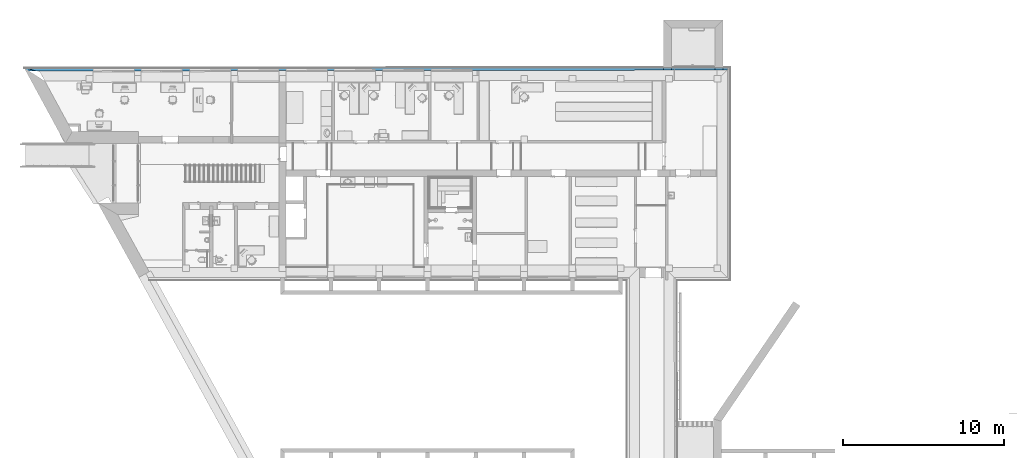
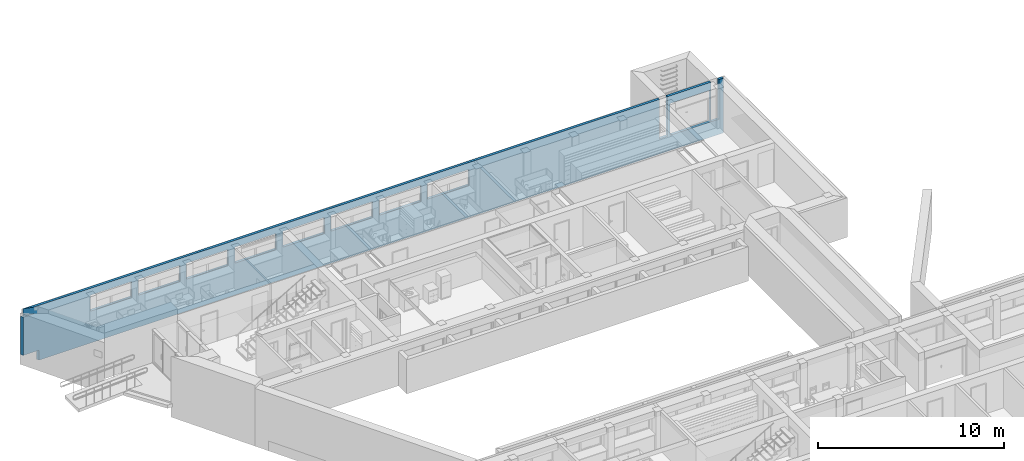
# One storey, part 65 of 127: 1 building element part, 9 openings, 1 element without a shape of its own.
"""IFC2X3 building model written with IfcOpenShell, lengths in millimetres."""

from ifc_helpers import new_model, entity, si_unit, converted_unit, derived_unit, money_unit, direction, frame, origin_with_axes, origin_2d_with_axis, place, context, subcontext, project, spatial, polyline, rectangle, outline, extrude, boolean, faceted_brep, material, type_object, element, aggregate, save


model = new_model("IFC2X3")

# Units and contexts
model_context = context("Model", 3, precision=1e-05, world=origin_with_axes(), true_north=direction((0.0, 1.0)))
body_context = subcontext(model_context, "Body", "Model", "MODEL_VIEW")
ifc_project = project(units=[si_unit("LENGTHUNIT", "METRE", prefix="MILLI"), si_unit("AREAUNIT", "SQUARE_METRE"), si_unit("VOLUMEUNIT", "CUBIC_METRE"), converted_unit("PLANEANGLEUNIT", "DEGREE", entity("IfcPlaneAngleMeasure", 0.0174532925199), si_unit("PLANEANGLEUNIT", "RADIAN"), dimensions=[0, 0, 0, 0, 0, 0, 0]), si_unit("SOLIDANGLEUNIT", "STERADIAN"), money_unit("EUR"), converted_unit("TIMEUNIT", "Year", entity("IfcTimeMeasure", 31556926.0), si_unit("TIMEUNIT", "SECOND"), dimensions=[0, 0, 1, 0, 0, 0, 0]), si_unit("MASSUNIT", "GRAM", prefix="KILO"), si_unit("THERMODYNAMICTEMPERATUREUNIT", "DEGREE_CELSIUS"), si_unit("LUMINOUSINTENSITYUNIT", "LUMEN"), si_unit("ENERGYUNIT", "JOULE", prefix="MEGA"), derived_unit("THERMALCONDUCTANCEUNIT", [(si_unit("POWERUNIT", "WATT"), 1), (si_unit("LENGTHUNIT", "METRE"), -1), (si_unit("THERMODYNAMICTEMPERATUREUNIT", "KELVIN"), -1)]), derived_unit("SPECIFICHEATCAPACITYUNIT", [(si_unit("ENERGYUNIT", "JOULE"), 1), (si_unit("MASSUNIT", "GRAM", prefix="KILO"), -1), (si_unit("THERMODYNAMICTEMPERATUREUNIT", "KELVIN"), -1)]), derived_unit("MASSDENSITYUNIT", [(si_unit("MASSUNIT", "GRAM", prefix="KILO"), 1), (si_unit("VOLUMEUNIT", "CUBIC_METRE"), -1)])], contexts=[model_context])

# Site, building, storey
site_placement = place(None, origin_with_axes())
site = spatial("IfcSite", under=ifc_project, at=site_placement, Name="Site", CompositionType="ELEMENT")
building_placement = place(site_placement, origin_with_axes())
building = spatial("IfcBuilding", under=site, at=building_placement, Name="Building", CompositionType="ELEMENT")
storey_placement = place(building_placement, origin_with_axes())
storey = spatial("IfcBuildingStorey", under=building, at=storey_placement, Name="1 KORRUS", CompositionType="ELEMENT", Elevation=0.0)

# Wall, openings, building element part
wall_type = type_object("IfcWallType", Name="VS-2", PredefinedType="NOTDEFINED")
wall_placement = place(storey_placement, frame((-0.195999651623, 71777.5659328, -1000.0), z_axis=(0.0, 0.0, 1.0), x_axis=(0.999999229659, 0.00124124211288, 0.0)))
wall = element("IfcWall", 1, at=wall_placement, inside=storey, type_object=wall_type, Name="VS2 paekivi")
opening_1_placement = place(wall_placement, frame((5451.44506851, 0.0, 2100.0), z_axis=(0.0, 0.0, 1.0), x_axis=(1.0, 0.0, 0.0)))
element("IfcOpeningElement", 2, at=opening_1_placement, cuts=wall, Name="välisaken * Double Window 22", context=body_context, shape_type="SweptSolid", body=[
    extrude(rectangle(XDim=2580.0, YDim=1050.0, at=origin_2d_with_axis()), frame((0.0, 10.0000000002, 525.0), z_axis=(0.0, 1.0, 0.0), x_axis=(1.0, 0.0, 0.0)), (0.0, 0.0, -1.0), 1460.0),
    extrude(rectangle(XDim=2580.0, YDim=1050.0, at=origin_2d_with_axis()), frame((0.0, 9.99999999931, 525.0), z_axis=(0.0, -1.0, 0.0), x_axis=(1.0, 0.0, 0.0)), (0.0, 0.0, -1.0), 1000.0),
])
opening_2_placement = place(wall_placement, frame((8451.2826352, 0.0, 2100.0), z_axis=(0.0, 0.0, 1.0), x_axis=(1.0, 0.0, 0.0)))
element("IfcOpeningElement", 3, at=opening_2_placement, cuts=wall, Name="välisaken * Double Window 22", context=body_context, shape_type="SweptSolid", body=[
    extrude(rectangle(XDim=2580.0, YDim=1050.0, at=origin_2d_with_axis()), frame((0.0, 10.0000000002, 525.0), z_axis=(0.0, 1.0, 0.0), x_axis=(1.0, 0.0, 0.0)), (0.0, 0.0, -1.0), 1460.0),
    extrude(rectangle(XDim=2580.0, YDim=1050.0, at=origin_2d_with_axis()), frame((0.0, 9.99999999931, 525.0), z_axis=(0.0, -1.0, 0.0), x_axis=(1.0, 0.0, 0.0)), (0.0, 0.0, -1.0), 1000.0),
])
opening_3_placement = place(wall_placement, frame((11449.5314844, 0.0, 2100.0), z_axis=(0.0, 0.0, 1.0), x_axis=(1.0, 0.0, 0.0)))
element("IfcOpeningElement", 4, at=opening_3_placement, cuts=wall, Name="välisaken * Double Window 22", context=body_context, shape_type="SweptSolid", body=[
    extrude(rectangle(XDim=2580.0, YDim=1050.0, at=origin_2d_with_axis()), frame((0.0, 10.0000000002, 525.0), z_axis=(0.0, 1.0, 0.0), x_axis=(1.0, 0.0, 0.0)), (0.0, 0.0, -1.0), 1460.0),
    extrude(rectangle(XDim=2580.0, YDim=1050.0, at=origin_2d_with_axis()), frame((1.13686837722e-10, 9.99999999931, 525.0), z_axis=(0.0, -1.0, 0.0), x_axis=(1.0, 0.0, 0.0)), (0.0, 0.0, -1.0), 1000.0),
])
opening_4_placement = place(wall_placement, frame((14446.3955727, 0.0, 2100.0), z_axis=(0.0, 0.0, 1.0), x_axis=(1.0, 0.0, 0.0)))
element("IfcOpeningElement", 5, at=opening_4_placement, cuts=wall, Name="välisaken * Double Window 22", context=body_context, shape_type="SweptSolid", body=[
    extrude(rectangle(XDim=2580.0, YDim=1050.0, at=origin_2d_with_axis()), frame((-1.13686837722e-10, 10.0000000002, 525.0), z_axis=(0.0, 1.0, 0.0), x_axis=(1.0, 0.0, 0.0)), (0.0, 0.0, -1.0), 1460.0),
    extrude(rectangle(XDim=2580.0, YDim=1050.0, at=origin_2d_with_axis()), frame((-1.13686837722e-10, 9.99999999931, 525.0), z_axis=(0.0, -1.0, 0.0), x_axis=(1.0, 0.0, 0.0)), (0.0, 0.0, -1.0), 1000.0),
])
opening_5_placement = place(wall_placement, frame((17443.1382835, 0.0, 2100.0), z_axis=(0.0, 0.0, 1.0), x_axis=(1.0, 0.0, 0.0)))
element("IfcOpeningElement", 6, at=opening_5_placement, cuts=wall, Name="välisaken * Double Window 22", context=body_context, shape_type="SweptSolid", body=[
    extrude(rectangle(XDim=2580.0, YDim=1050.0, at=origin_2d_with_axis()), frame((0.0, 10.0000000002, 525.0), z_axis=(0.0, 1.0, 0.0), x_axis=(1.0, 0.0, 0.0)), (0.0, 0.0, -1.0), 1460.0),
    extrude(rectangle(XDim=2580.0, YDim=1050.0, at=origin_2d_with_axis()), frame((0.0, 9.99999999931, 525.0), z_axis=(0.0, -1.0, 0.0), x_axis=(1.0, 0.0, 0.0)), (0.0, 0.0, -1.0), 1000.0),
])
opening_6_placement = place(wall_placement, frame((20440.0452109, 0.0, 2100.0), z_axis=(0.0, 0.0, 1.0), x_axis=(1.0, 0.0, 0.0)))
element("IfcOpeningElement", 7, at=opening_6_placement, cuts=wall, Name="välisaken * Double Window 22", context=body_context, shape_type="SweptSolid", body=[
    extrude(rectangle(XDim=2580.0, YDim=1050.0, at=origin_2d_with_axis()), frame((0.0, 10.0000000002, 525.0), z_axis=(0.0, 1.0, 0.0), x_axis=(1.0, 0.0, 0.0)), (0.0, 0.0, -1.0), 1460.0),
    extrude(rectangle(XDim=2580.0, YDim=1050.0, at=origin_2d_with_axis()), frame((0.0, 9.99999999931, 525.0), z_axis=(0.0, -1.0, 0.0), x_axis=(1.0, 0.0, 0.0)), (0.0, 0.0, -1.0), 1000.0),
])
opening_7_placement = place(wall_placement, frame((23448.1423437, -9.09494701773e-10, 2100.0), z_axis=(0.0, 0.0, 1.0), x_axis=(1.0, 0.0, 0.0)))
element("IfcOpeningElement", 8, at=opening_7_placement, cuts=wall, Name="välisaken * Double Window 22", context=body_context, shape_type="SweptSolid", body=[
    extrude(rectangle(XDim=2580.0, YDim=1050.0, at=origin_2d_with_axis()), frame((-1.13686837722e-10, 10.0000000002, 525.0), z_axis=(0.0, 1.0, 0.0), x_axis=(1.0, 0.0, 0.0)), (0.0, 0.0, -1.0), 1460.0),
    extrude(rectangle(XDim=2580.0, YDim=1050.0, at=origin_2d_with_axis()), frame((1.13686837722e-10, 9.99999999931, 525.0), z_axis=(0.0, -1.0, 0.0), x_axis=(1.0, 0.0, 0.0)), (0.0, 0.0, -1.0), 1000.0),
])
opening_8_placement = place(wall_placement, frame((26449.4719784, -9.09494701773e-10, 2100.0), z_axis=(0.0, 0.0, 1.0), x_axis=(1.0, 0.0, 0.0)))
element("IfcOpeningElement", 9, at=opening_8_placement, cuts=wall, Name="välisaken * Double Window 22", context=body_context, shape_type="SweptSolid", body=[
    extrude(rectangle(XDim=2580.0, YDim=1050.0, at=origin_2d_with_axis()), frame((0.0, 9.99999999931, 525.0), z_axis=(0.0, 1.0, 0.0), x_axis=(1.0, 0.0, 0.0)), (0.0, 0.0, -1.0), 1460.0),
    extrude(rectangle(XDim=2580.0, YDim=1050.0, at=origin_2d_with_axis()), frame((0.0, 9.99999999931, 525.0), z_axis=(0.0, -1.0, 0.0), x_axis=(1.0, 0.0, 0.0)), (0.0, 0.0, -1.0), 1000.0),
])
opening_9_placement = place(wall_placement, frame((41506.6155205, 0.0, 1000.0), z_axis=(0.0, 0.0, 1.0), x_axis=(1.0, 0.0, 0.0)))
element("IfcOpeningElement", 10, at=opening_9_placement, cuts=wall, Name="Välisuks * Double Door 22", context=body_context, shape_type="SweptSolid", body=[
    extrude(rectangle(XDim=2500.0, YDim=2100.0, at=origin_2d_with_axis()), frame((1.13686837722e-10, -820.000000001, 1050.0), z_axis=(0.0, -1.0, 0.0), x_axis=(-1.0, 0.0, 0.0)), (0.0, 0.0, -1.0), 2560.0),
    extrude(rectangle(XDim=2574.0, YDim=2137.0, at=origin_2d_with_axis()), frame((0.0, -630.0, 1068.5), z_axis=(0.0, -1.0, 0.0), x_axis=(-1.0, 0.0, 0.0)), (0.0, 0.0, 1.0), 920.000000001),
    extrude(rectangle(XDim=2574.0, YDim=2137.0, at=origin_2d_with_axis()), frame((0.0, 190.000000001, 1068.5), z_axis=(0.0, 1.0, 0.0), x_axis=(-1.0, 0.0, 0.0)), (0.0, 0.0, 1.0), 920.000000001),
])
ifc_material = material(Name="Soojustus - Plastik Kõva")
building_element_part_placement = place(wall_placement, origin_with_axes())
solid_1 = boolean("DIFFERENCE", boolean("DIFFERENCE", boolean("DIFFERENCE", boolean("DIFFERENCE", boolean("DIFFERENCE", boolean("DIFFERENCE", boolean("DIFFERENCE", boolean("DIFFERENCE", extrude(outline(polyline([(-102.840454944, 0.0), (43738.1831564, 0.0), (43738.1831564, 160.0), (-102.840454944, 160.0), (-102.840454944, 0.0)])), origin_with_axes(), (0.0, 0.0, 1.0), 3600.00000298), faceted_brep([(1185.52869512, -630.000000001, 3167.85512503), (1185.52869512, -630.000000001, 3600.00000289), (-102.840454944, -630.000000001, 3600.00000298), (-102.840454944, -630.000000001, 0.0), (1318.8927051, -630.0, 0.0), (1318.8927051, -630.0, 650.0), (1182.44218317, -630.000000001, 650.0), (1182.44218317, -630.000000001, 3167.85512503), (877.435406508, -59.7821776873, 3600.0), (877.435406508, -59.7821776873, 3167.85512503), (657.323547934, 0.0, 3600.00000293), (-102.840454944, 0.0, 3600.00000298), (-102.840454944, 0.0, 0.0), (977.895407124, 0.0, 0.0), (977.895407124, 0.0, 650.0), (841.444885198, 0.0, 650.0), (841.444885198, 0.0, 3363.55570923), (873.17688523, -58.625567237, 3363.55570923), (873.17688523, -58.625567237, 3167.85512503), (657.323547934, 0.0, 3363.55570923)], [[[0, 1, 2, 3, 4, 5, 6, 7]], [[8, 1, 0, 9]], [[8, 10, 11, 2, 1]], [[11, 12, 3, 2]], [[13, 4, 3, 12]], [[5, 4, 13, 14]], [[6, 5, 14, 15]], [[7, 6, 15, 16, 17, 18]], [[0, 7, 18, 9]], [[10, 8, 9, 18, 17, 19]], [[14, 13, 12, 11, 10, 19, 16, 15]], [[16, 19, 17]]])), faceted_brep([(3740.42454351, -274.769073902, 3600.0), (3739.98361559, -630.000000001, 3600.0), (4159.98393913, -630.000000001, 3600.0), (4160.42421997, -275.29039559, 3600.0), (3740.42454351, -274.769073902, 1000.0), (3739.98361559, -630.000000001, 1000.0), (4159.98393913, -630.000000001, 1000.0), (4160.42421997, -275.29039559, 1000.0)], [[[0, 1, 2, 3]], [[1, 0, 4, 5]], [[6, 2, 1, 5]], [[3, 2, 6, 7]], [[0, 3, 7, 4]], [[6, 5, 4, 7]]])), faceted_brep([(6741.9663902, -278.494716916, 3600.0), (6741.5300867, -630.0, 3600.0), (7161.53041025, -630.000000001, 3600.0), (7161.96606666, -279.016038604, 3600.0), (6741.9663902, -278.494716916, 1000.0), (6741.5300867, -630.0, 1000.0), (7161.53041025, -630.000000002, 1000.0), (7161.96606666, -279.016038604, 1000.0)], [[[0, 1, 2, 3]], [[1, 0, 4, 5]], [[6, 2, 1, 5]], [[3, 2, 6, 7]], [[0, 3, 7, 4]], [[6, 5, 4, 7]]])), faceted_brep([(9741.80395689, -280.21836493, 3600.0), (9741.36979286, -630.000000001, 3600.0), (10161.3701164, -630.000000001, 3600.0), (10161.8036333, -280.739686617, 3600.0), (9741.80395689, -280.21836493, 1000.0), (9741.36979286, -630.000000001, 1000.0), (10161.3701164, -630.000000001, 1000.0), (10161.8036333, -280.739686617, 1000.0)], [[[0, 1, 2, 3]], [[1, 0, 4, 5]], [[6, 2, 1, 5]], [[3, 2, 6, 7]], [[0, 3, 7, 4]], [[6, 5, 4, 7]]])), faceted_brep([(12741.6403764, -286.648532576, 3600.0), (12741.2141938, -630.000000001, 3600.0), (13161.2145173, -630.000000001, 3600.0), (13161.6400529, -287.169854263, 3600.0), (12741.6403764, -286.648532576, 1000.0), (12741.2141938, -630.000000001, 1000.0), (13161.2145173, -630.000000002, 1000.0), (13161.6400529, -287.169854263, 1000.0)], [[[0, 1, 2, 3]], [[1, 0, 4, 5]], [[6, 2, 1, 5]], [[3, 2, 6, 7]], [[0, 3, 7, 4]], [[6, 5, 4, 7]]])), faceted_brep([(15741.7164354, -288.757165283, 3600.0), (15741.2928701, -630.000000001, 3600.0), (16161.2931937, -630.000000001, 3600.0), (16161.7161119, -289.27848697, 3600.0), (15741.7164354, -288.757165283, 1000.0), (15741.2928701, -630.000000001, 1000.0), (16161.2931937, -630.000000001, 1000.0), (16161.7161119, -289.27848697, 1000.0)], [[[0, 1, 2, 3]], [[1, 0, 4, 5]], [[6, 2, 1, 5]], [[3, 2, 6, 7]], [[0, 3, 7, 4]], [[6, 5, 4, 7]]])), faceted_brep([(18741.5002726, -291.997280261, 3600.0), (18741.0807291, -630.000000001, 3600.0), (19161.0810526, -630.000000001, 3600.0), (19161.4999491, -292.518601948, 3600.0), (18741.5002726, -291.997280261, 1000.0), (18741.0807291, -630.000000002, 1000.0), (19161.0810526, -630.000000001, 1000.0), (19161.4999491, -292.518601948, 1000.0)], [[[0, 1, 2, 3]], [[1, 0, 4, 5]], [[6, 2, 1, 5]], [[3, 2, 6, 7]], [[0, 3, 7, 4]], [[6, 5, 4, 7]]])), faceted_brep([(21740.3620403, -296.287362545, 3600.0), (21739.9478218, -630.000000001, 3600.0), (22159.9481453, -630.0, 3600.0), (22160.3617168, -296.808684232, 3600.0), (21740.3620403, -296.287362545, 1000.0), (21739.9478218, -630.000000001, 1000.0), (22159.9481453, -630.000000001, 1000.0), (22160.3617168, -296.808684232, 1000.0)], [[[0, 1, 2, 3]], [[1, 0, 4, 5]], [[6, 2, 1, 5]], [[3, 2, 6, 7]], [[0, 3, 7, 4]], [[6, 5, 4, 7]]]))
solid_2 = boolean("DIFFERENCE", boolean("DIFFERENCE", boolean("DIFFERENCE", boolean("DIFFERENCE", boolean("DIFFERENCE", boolean("DIFFERENCE", boolean("DIFFERENCE", boolean("DIFFERENCE", solid_1, faceted_brep([(24741.4903972, -299.331511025, 3600.0), (24741.0799572, -630.000000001, 3600.0), (25161.0802808, -630.0, 3600.0), (25161.4900737, -299.852832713, 3600.0), (24741.4903972, -299.331511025, 1000.0), (24741.0799572, -630.000000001, 1000.0), (25161.0802808, -630.0, 1000.0), (25161.4900737, -299.852832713, 1000.0)], [[[0, 1, 2, 3]], [[1, 0, 4, 5]], [[6, 2, 1, 5]], [[3, 2, 6, 7]], [[0, 3, 7, 4]], [[6, 5, 4, 7]]])), faceted_brep([(27739.9933001, -299.625023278, 3600.0), (27739.5832244, -630.000000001, 3600.0), (28159.583548, -630.000000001, 3600.0), (28159.9929765, -300.146344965, 3600.0), (27739.9933001, -299.625023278, 1000.0), (27739.5832244, -630.000000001, 1000.0), (28159.583548, -630.000000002, 1000.0), (28159.9929765, -300.146344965, 1000.0)], [[[0, 1, 2, 3]], [[1, 0, 4, 5]], [[6, 2, 1, 5]], [[3, 2, 6, 7]], [[0, 3, 7, 4]], [[6, 5, 4, 7]]])), faceted_brep([(30739.9934534, -303.348752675, 3600.0), (30739.5879998, -630.000000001, 3600.0), (31159.5883233, -630.000000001, 3600.0), (31159.9931298, -303.870074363, 3600.0), (30739.9934534, -303.348752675, 1000.0), (30739.5879998, -630.000000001, 1000.0), (31159.5883233, -630.000000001, 1000.0), (31159.9931298, -303.870074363, 1000.0)], [[[0, 1, 2, 3]], [[1, 0, 4, 5]], [[6, 2, 1, 5]], [[3, 2, 6, 7]], [[0, 3, 7, 4]], [[6, 5, 4, 7]]])), faceted_brep([(33739.9100805, -307.072378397, 3600.0), (33739.5092488, -630.000000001, 3600.0), (34159.5095723, -630.000000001, 3600.0), (34159.9097569, -307.593700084, 3600.0), (33739.9100805, -307.072378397, 1000.0), (33739.5092488, -630.000000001, 1000.0), (34159.5095723, -630.000000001, 1000.0), (34159.9097569, -307.593700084, 1000.0)], [[[0, 1, 2, 3]], [[1, 0, 4, 5]], [[6, 2, 1, 5]], [[3, 2, 6, 7]], [[0, 3, 7, 4]], [[6, 5, 4, 7]]])), faceted_brep([(36739.8265984, -310.796003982, 3600.0), (36739.4303887, -630.000000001, 3600.0), (37159.4307122, -630.000000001, 3600.0), (37159.8262749, -311.31732567, 3600.0), (36739.8265984, -310.796003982, 1000.0), (36739.4303887, -630.000000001, 1000.0), (37159.4307122, -630.000000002, 1000.0), (37159.8262749, -311.31732567, 1000.0)], [[[0, 1, 2, 3]], [[1, 0, 4, 5]], [[6, 2, 1, 5]], [[3, 2, 6, 7]], [[0, 3, 7, 4]], [[6, 5, 4, 7]]])), faceted_brep([(39740.5976359, -314.520562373, 3600.0), (39740.2060492, -630.0, 3600.0), (40160.2063728, -630.0, 3600.0), (40160.5973123, -315.041884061, 3600.0), (39740.5976359, -314.520562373, 1000.0), (39740.2060492, -630.000000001, 1000.0), (40160.2063728, -630.0, 1000.0), (40160.5973123, -315.041884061, 1000.0)], [[[0, 1, 2, 3]], [[1, 0, 4, 5]], [[6, 2, 1, 5]], [[3, 2, 6, 7]], [[0, 3, 7, 4]], [[6, 5, 4, 7]]])), faceted_brep([(42742.620226, -630.0, 3600.0), (42742.620226, -630.000000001, 1000.0), (43567.9477789, -630.0, 1000.0), (43567.9477789, -630.0, 0.0), (43738.1831564, -630.0, 0.0), (43738.1831564, -630.0, 3600.00000298), (42743.0071869, -318.24727948, 3600.0), (42743.0071869, -318.24727948, 1000.0), (42937.5529611, -318.488758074, 1000.0), (42937.947296, -9.09494701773e-10, 1000.0), (43567.9477789, 0.0, 1000.0), (43567.9477789, 0.0, 0.0), (43738.1831564, 0.0, 0.0), (43738.1831564, 0.0, 3600.00000298), (42937.947296, 0.0, 3600.0), (42937.5529611, -318.488758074, 3600.0)], [[[0, 1, 2, 3, 4, 5]], [[0, 6, 7, 1]], [[2, 1, 7, 8, 9, 10]], [[3, 2, 10, 11]], [[3, 11, 12, 4]], [[5, 4, 12, 13]], [[6, 0, 5, 13, 14, 15]], [[6, 15, 8, 7]], [[15, 14, 9, 8]], [[9, 14, 13, 12, 11, 10]]])), faceted_brep([(657.323547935, -9.09494701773e-10, 3167.85512503), (657.323547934, 0.0, 3600.00000293), (-102.840454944, 0.0, 3600.00000298), (-102.840454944, 0.0, 0.0), (977.895407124, 0.0, 0.0), (977.895407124, 0.0, 650.0), (2.04636307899e-09, 0.0, 650.0), (0.0, 0.0, 3167.85512503), (68.2199265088, 160.0, 3600.00000297), (68.2199265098, 160.0, 3167.85512503), (-102.840454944, 159.999999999, 3600.00000298), (-102.840454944, 159.999999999, 0.0), (891.29291875, 159.999999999, 0.0), (891.29291875, 159.999999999, 650.0), (-86.6024883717, 159.999999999, 650.0), (-86.6024883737, 159.999999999, 3167.85512503)], [[[0, 1, 2, 3, 4, 5, 6, 7]], [[8, 1, 0, 9]], [[1, 8, 10, 2]], [[10, 11, 3, 2]], [[12, 4, 3, 11]], [[4, 12, 13, 5]], [[6, 5, 13, 14]], [[7, 6, 14, 15]], [[0, 7, 15, 9]], [[13, 12, 11, 10, 8, 9, 15, 14]]]))
solid_3 = boolean("DIFFERENCE", boolean("DIFFERENCE", boolean("DIFFERENCE", boolean("DIFFERENCE", boolean("DIFFERENCE", boolean("DIFFERENCE", boolean("DIFFERENCE", boolean("DIFFERENCE", solid_2, faceted_brep([(3884.06051778, 159.999999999, 2100.0), (3884.06051778, 159.999999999, 3150.0), (28106.8498502, 160.0, 3150.0), (28106.8498502, 160.0, 2100.0), (3884.02333769, 130.046079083, 2100.0), (3884.02333769, 130.046079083, 3150.0), (28106.7753505, 99.9797560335, 3150.0), (28106.7753505, 99.9797560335, 2100.0)], [[[0, 1, 2, 3]], [[1, 0, 4, 5]], [[2, 1, 5, 6]], [[3, 2, 6, 7]], [[0, 3, 7, 4]], [[4, 7, 6, 5]]])), faceted_brep([(39603.2008308, 0.0, 1000.0), (40103.2008308, -9.09494701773e-10, 1000.0), (40103.2008308, 0.0, 3600.0000002), (39603.2008308, 9.09494701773e-10, 3600.00000023), (39603.2008308, 159.999999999, 1000.0), (40103.2008308, 160.0, 1000.0), (40103.2008308, 160.000000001, 3600.0), (39603.2008308, 160.0, 3600.0)], [[[0, 1, 2, 3]], [[1, 0, 4, 5]], [[6, 2, 1, 5]], [[7, 3, 2, 6]], [[0, 3, 7, 4]], [[4, 7, 6, 5]]])), faceted_brep([(42790.8627419, 160.0, 3600.0), (42790.664143, 0.0, 3600.00000001), (43290.6645282, 0.0, 3600.0), (43290.8631271, 160.0, 3600.0), (42790.8627419, 159.999999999, 1000.0), (42790.664143, -9.09494701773e-10, 1000.0), (43290.6645282, -9.09494701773e-10, 1000.0), (43290.8631271, 159.999999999, 1000.0)], [[[0, 1, 2, 3]], [[1, 0, 4, 5]], [[6, 2, 1, 5]], [[3, 2, 6, 7]], [[4, 0, 3, 7]], [[5, 4, 7, 6]]])), faceted_brep([(43567.9477789, 160.0, 1000.0), (43568.1458818, 160.0, 1000.0), (43568.1458818, 160.000000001, 3600.0), (43738.1831564, 159.999999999, 3600.00000298), (43738.1831564, 159.999999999, 0.0), (43567.9477789, 160.0, 0.0), (43567.9477789, 0.0, 1000.0), (43567.9477789, 9.09494701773e-10, 3600.0), (43738.1831564, 0.0, 3600.00000298), (43738.1831564, 0.0, 0.0), (43567.9477789, 0.0, 0.0)], [[[0, 1, 2, 3, 4, 5]], [[1, 0, 6]], [[7, 2, 1, 6]], [[2, 7, 8, 3]], [[8, 9, 4, 3]], [[10, 5, 4, 9]], [[10, 6, 0, 5]], [[6, 10, 9, 8, 7]]])), faceted_brep([(-102.840454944, 159.999999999, 3600.00000298), (-102.840454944, 159.999999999, 0.0), (891.29291875, 159.999999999, 0.0), (891.29291875, 159.999999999, 650.0), (-86.6024883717, 159.999999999, 650.0), (-86.6024883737, 159.999999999, 3167.85512503), (68.2199265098, 160.0, 3167.85512503), (68.2199265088, 160.0, 3600.00000297), (-102.840454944, 190.000000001, 0.0), (-102.840454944, 190.000000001, 3600.00000298), (-102.840454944, 190.0, 3167.85512503), (-102.840454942, 190.000000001, 650.0), (875.054952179, 190.000000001, 0.0), (875.05495218, 190.0, 650.0), (-42.2370025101, 190.0, 3167.85512503), (1.13686837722e-10, 178.528469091, 3363.55570923), (1.13686837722e-10, 178.528469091, 3600.00000298), (-42.2370025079, 190.0, 3363.55570923), (1.13686837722e-10, 189.999999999, 3600.00000298), (1.13686837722e-10, 189.999999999, 3363.55570923)], [[[0, 1, 2, 3, 4, 5, 6, 7]], [[8, 1, 0, 9, 10, 11]], [[1, 8, 12, 2]], [[3, 2, 12, 13]], [[11, 4, 3, 13]], [[5, 4, 11, 10]], [[5, 10, 14, 6]], [[15, 16, 7, 6, 14, 17]], [[9, 0, 7, 16, 18]], [[14, 10, 9, 18, 19, 17]], [[8, 11, 13, 12]], [[16, 15, 19, 18]], [[15, 17, 19]]])), faceted_brep([(3884.09775508, 190.0, 3150.0), (3884.09775508, 190.0, 2100.0), (3884.06051778, 160.0, 2100.0), (3884.06051778, 160.0, 3150.0), (28106.8870875, 190.0, 3150.0), (28106.8870875, 190.0, 2100.0), (28106.8498502, 160.0, 2100.0), (28106.8498502, 160.0, 3150.0)], [[[0, 1, 2, 3]], [[1, 0, 4, 5]], [[2, 1, 5, 6]], [[3, 2, 6, 7]], [[0, 3, 7, 4]], [[7, 6, 5, 4]]])), faceted_brep([(39603.2008308, 160.0, 3600.0), (39603.2008308, 159.999999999, 1000.0), (40103.2008308, 160.0, 1000.0), (40103.2008308, 160.000000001, 3600.0), (39603.2008308, 190.0, 3600.0), (39603.2008308, 189.999999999, 1000.0), (40103.2008308, 190.0, 1000.0), (40103.2008308, 190.000000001, 3600.0)], [[[0, 1, 2, 3]], [[1, 0, 4, 5]], [[2, 1, 5, 6]], [[3, 2, 6, 7]], [[0, 3, 7, 4]], [[5, 4, 7, 6]]])), faceted_brep([(42790.8627419, 160.0, 3600.0), (42790.8627419, 159.999999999, 1000.0), (43290.8631271, 159.999999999, 1000.0), (43290.8631271, 160.0, 3600.0), (42790.8999792, 190.0, 3600.0), (42790.8999792, 190.0, 1000.0), (43290.9003643, 189.999999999, 1000.0), (43290.9003643, 189.999999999, 3600.0)], [[[0, 1, 2, 3]], [[0, 4, 5, 1]], [[2, 1, 5, 6]], [[3, 2, 6, 7]], [[4, 0, 3, 7]], [[6, 5, 4, 7]]]))
building_element_part = element("IfcBuildingElementPart", 11, at=building_element_part_placement, material=ifc_material, Name="Soojustus - Plastik Kõva", context=body_context, shape_type="CSG", body=[
    boolean("DIFFERENCE", solid_3, faceted_brep([(43567.9477789, 160.0, 1000.0), (43567.9477789, 160.0, 0.0), (43738.1831564, 159.999999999, 0.0), (43738.1831564, 159.999999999, 3600.00000298), (43738.14603, 160.0, 3600.0), (43738.14603, 160.0, 1000.0), (43568.1458818, 160.0, 1000.0), (43567.9477789, 190.0, 1000.0), (43567.9477789, 190.0, 0.0), (43738.1831564, 189.999999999, 0.0), (43738.1831743, 190.0, 1000.0), (43738.1831564, 189.985577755, 1000.0), (43738.1831564, 189.985577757, 3600.0)], [[[0, 1, 2, 3, 4, 5, 6]], [[1, 0, 7, 8]], [[2, 1, 8, 9]], [[3, 2, 9, 10, 11, 12]], [[4, 3, 12]], [[5, 4, 12, 11]], [[0, 6, 5, 11, 10, 7]], [[8, 7, 10, 9]]])),
])
aggregate(wall, [building_element_part])

save(model, "model.ifc")
